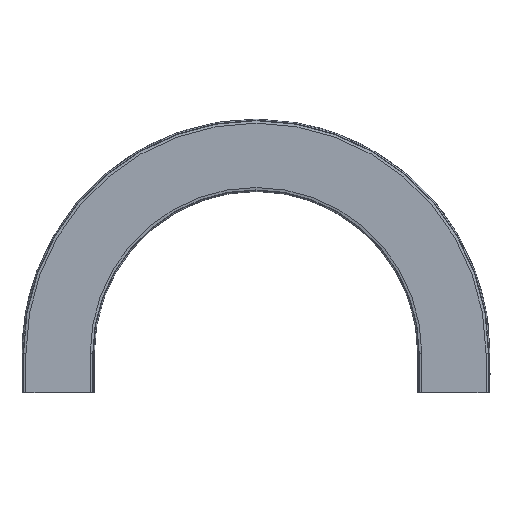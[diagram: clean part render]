
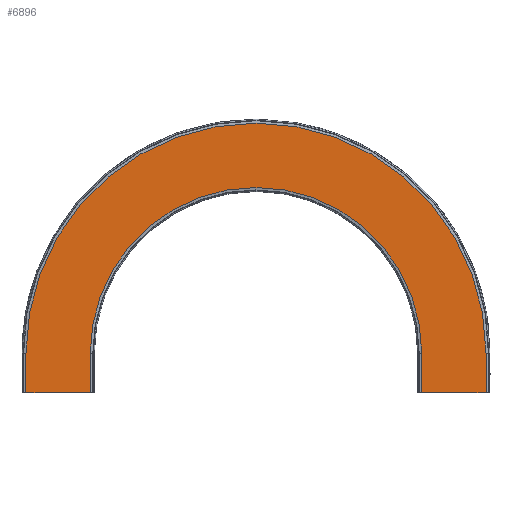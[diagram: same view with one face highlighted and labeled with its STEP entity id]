
A CAD part, front view. The second image highlights one B-rep face of the part: STEP entity #6896.
In plain terms, the highlighted planar face has unit normal (0, -1, 0).
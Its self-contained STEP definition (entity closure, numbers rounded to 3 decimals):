
#6653=CARTESIAN_POINT('',(104.,-74.,0.0));
#6654=VERTEX_POINT('',#6653);
#6661=CARTESIAN_POINT('',(-26.,-74.,0.0));
#6662=VERTEX_POINT('',#6661);
#6663=CARTESIAN_POINT('',(-26.,-74.,0.0));
#6664=DIRECTION('',(1.0,0.0,0.0));
#6665=VECTOR('',#6664,130.);
#6666=LINE('',#6663,#6665);
#6667=EDGE_CURVE('',#6662,#6654,#6666,.T.);
#6722=CARTESIAN_POINT('',(-26.,-74.,80.0));
#6723=VERTEX_POINT('',#6722);
#6732=CARTESIAN_POINT('',(-26.,-74.,0.0));
#6733=DIRECTION('',(0.0,0.0,1.0));
#6734=VECTOR('',#6733,80.0);
#6735=LINE('',#6732,#6734);
#6736=EDGE_CURVE('',#6662,#6723,#6735,.T.);
#6746=CARTESIAN_POINT('',(104.,-74.,80.0));
#6747=VERTEX_POINT('',#6746);
#6756=CARTESIAN_POINT('',(104.,-74.,0.0));
#6757=DIRECTION('',(0.0,0.0,1.0));
#6758=VECTOR('',#6757,80.0);
#6759=LINE('',#6756,#6758);
#6760=EDGE_CURVE('',#6654,#6747,#6759,.T.);
#6779=CARTESIAN_POINT('',(-696.,-74.,80.0));
#6780=VERTEX_POINT('',#6779);
#6795=CARTESIAN_POINT('',(-361.,-74.,80.0));
#6796=DIRECTION('',(0.0,-1.0,0.0));
#6797=DIRECTION('',(1.0,0.0,0.0));
#6798=AXIS2_PLACEMENT_3D('',#6795,#6796,#6797);
#6799=CIRCLE('',#6798,335.);
#6800=EDGE_CURVE('',#6723,#6780,#6799,.T.);
#6854=CARTESIAN_POINT('',(-826.,-74.,1416.637));
#6855=DIRECTION('',(0.0,-1.0,0.0));
#6856=DIRECTION('',(0.0,0.0,1.0));
#6857=AXIS2_PLACEMENT_3D('',#6854,#6855,#6856);
#6858=PLANE('',#6857);
#6859=CARTESIAN_POINT('',(-826.,-74.,0.0));
#6860=VERTEX_POINT('',#6859);
#6861=CARTESIAN_POINT('',(-696.,-74.,0.));
#6862=VERTEX_POINT('',#6861);
#6863=CARTESIAN_POINT('',(-826.,-74.,0.));
#6864=DIRECTION('',(1.0,0.0,0.0));
#6865=VECTOR('',#6864,130.0);
#6866=LINE('',#6863,#6865);
#6867=EDGE_CURVE('',#6860,#6862,#6866,.T.);
#6868=ORIENTED_EDGE('',*,*,#6867,.T.);
#6869=CARTESIAN_POINT('',(-696.,-74.,80.0));
#6870=DIRECTION('',(0.0,0.0,-1.0));
#6871=VECTOR('',#6870,80.0);
#6872=LINE('',#6869,#6871);
#6873=EDGE_CURVE('',#6780,#6862,#6872,.T.);
#6874=ORIENTED_EDGE('',*,*,#6873,.F.);
#6875=ORIENTED_EDGE('',*,*,#6800,.F.);
#6876=ORIENTED_EDGE('',*,*,#6736,.F.);
#6877=ORIENTED_EDGE('',*,*,#6667,.T.);
#6878=ORIENTED_EDGE('',*,*,#6760,.T.);
#6879=CARTESIAN_POINT('',(-826.,-74.,80.0));
#6880=VERTEX_POINT('',#6879);
#6881=CARTESIAN_POINT('',(-361.,-74.,80.0));
#6882=DIRECTION('',(0.0,-1.0,0.0));
#6883=DIRECTION('',(1.0,0.0,0.0));
#6884=AXIS2_PLACEMENT_3D('',#6881,#6882,#6883);
#6885=CIRCLE('',#6884,465.);
#6886=EDGE_CURVE('',#6747,#6880,#6885,.T.);
#6887=ORIENTED_EDGE('',*,*,#6886,.T.);
#6888=CARTESIAN_POINT('',(-826.,-74.,80.0));
#6889=DIRECTION('',(0.0,0.0,-1.0));
#6890=VECTOR('',#6889,80.0);
#6891=LINE('',#6888,#6890);
#6892=EDGE_CURVE('',#6880,#6860,#6891,.T.);
#6893=ORIENTED_EDGE('',*,*,#6892,.T.);
#6894=EDGE_LOOP('',(#6868,#6874,#6875,#6876,#6877,#6878,#6887,#6893));
#6895=FACE_OUTER_BOUND('',#6894,.T.);
#6896=ADVANCED_FACE('',(#6895),#6858,.T.);
